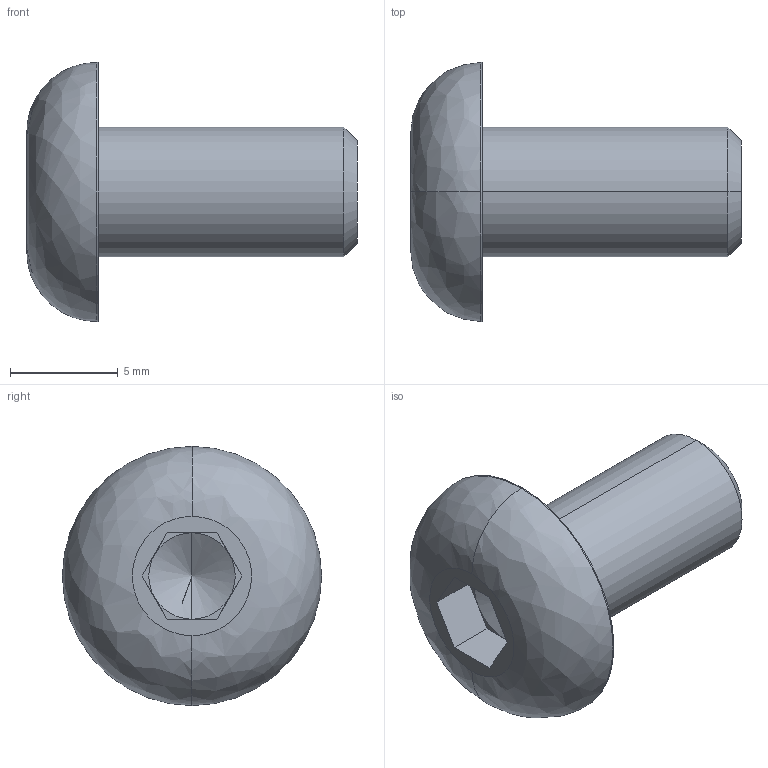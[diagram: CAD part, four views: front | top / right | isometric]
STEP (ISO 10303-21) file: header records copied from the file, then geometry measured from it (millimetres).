
FILE_DESCRIPTION (( 'STEP AP214' ), '1' );
FILE_NAME ('ISO7380_6x12.STEP', '2016-05-18T14:45:35', ( '' ), ( '' ), 'SwSTEP 2.0', 'SolidWorks 2014', '' );
FILE_SCHEMA (( 'AUTOMOTIVE_DESIGN' ));
Length unit declared in the file: millimetre
Products named in the file (1): ISO7380_6x12
Bounding box: 15.3 x 12 x 12 mm (x, y, z)
Volume: 600 mm3; surface area: 544.1 mm2
Topology: 1 solids, 1 shells, 28 faces, 62 edges, 36 vertices
Faces by surface type: plane 15, cylinder 7, cone 4, bspline 2
Entity records: 808 total; most frequent: CARTESIAN_POINT 164, DIRECTION 135, ORIENTED_EDGE 120, EDGE_CURVE 60, AXIS2_PLACEMENT_3D 51, VERTEX_POINT 36, LINE 33, VECTOR 33
